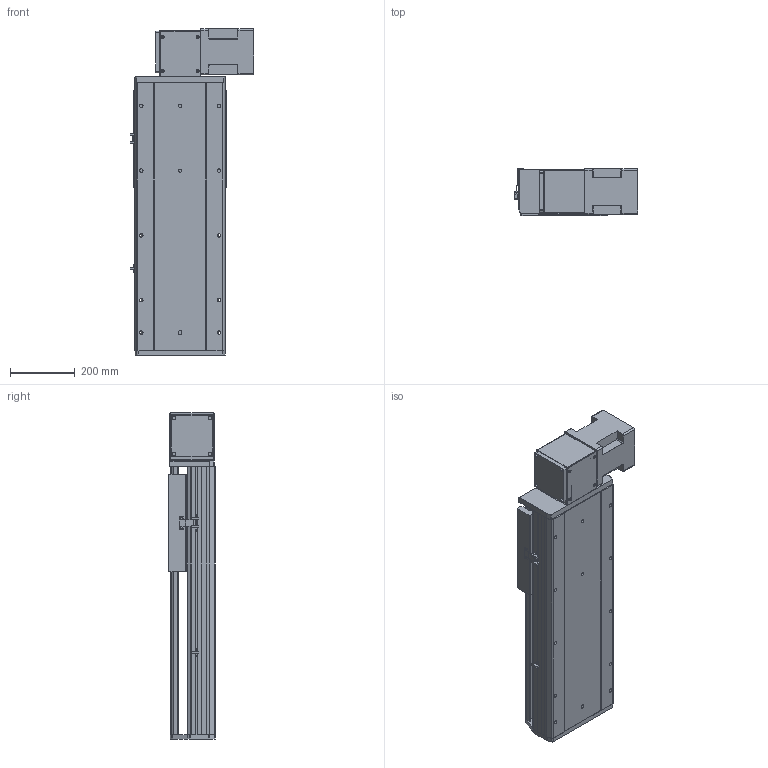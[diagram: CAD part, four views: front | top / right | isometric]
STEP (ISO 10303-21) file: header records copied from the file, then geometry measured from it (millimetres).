
FILE_DESCRIPTION (( 'STEP AP214' ), '1' );
FILE_NAME ('RTB28S-XX-500-BL-M100-XX-C4.STEP', '2025-12-22T02:16:25', ( '' ), ( '' ), 'SwSTEP 2.0', 'SolidWorks 2018', '' );
FILE_SCHEMA (( 'AUTOMOTIVE_DESIGN' ));
Length unit declared in the file: millimetre
Products named in the file (4): RTB28S-GY-008^RTB28S-XX-XX-BL-M100-XX-C4; RTB28S-GY-011^RTB28S-XX-XX-BL-M100-XX-C4; RTB28S-XX-500-BL-M100-XX-C4; RTB28S-GY-004^RTB28S-XX-XX-BL-M100-XX-C4
Assembly tree (3 placements, depth 2):
  RTB28S-XX-500-BL-M100-XX-C4
    RTB28S-GY-011^RTB28S-XX-XX-BL-M100-XX-C4
    RTB28S-GY-004^RTB28S-XX-XX-BL-M100-XX-C4
    RTB28S-GY-008^RTB28S-XX-XX-BL-M100-XX-C4
Bounding box: 380.7 x 145 x 1007 mm (x, y, z)
Volume: 20162467.3 mm3; surface area: 2009388.3 mm2
Topology: 3 solids, 4 shells, 758 faces, 1998 edges, 1268 vertices
Faces by surface type: plane 339, cylinder 335, cone 80, torus 4
Entity records: 28055 total; most frequent: CARTESIAN_POINT 4552, DIRECTION 4224, ORIENTED_EDGE 3932, EDGE_CURVE 1966, AXIS2_PLACEMENT_3D 1512, VERTEX_POINT 1268, LINE 1200, VECTOR 1200
